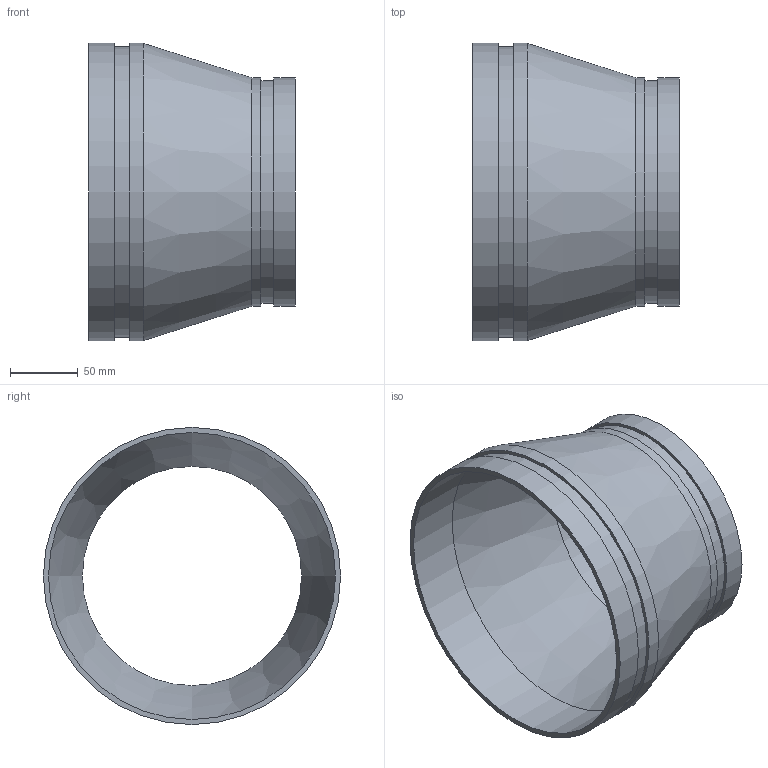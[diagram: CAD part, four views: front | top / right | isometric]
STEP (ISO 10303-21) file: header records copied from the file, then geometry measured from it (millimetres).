
FILE_DESCRIPTION(/* description */ ('VIC REDUCER CONCENTRIC No 450-SS','CAx-IF Rec.Pracs.---Representation and Presentation of Product Manufacturing Information (PMI)---4.0---2014-10-13'),/* implementation_level */ '2;1');
FILE_NAME(/* name */ 'C:\Users\kkamble\AppData\Roaming\Autodesk\ApplicationPlugins\Back Up\Victaulic_SS-OGS_Reducer Concentric_Sched 10S_No 450 SS (OGS)\Victaulic_SS-OGS_Reducer Concentric_Sched 10S_No 450 SS (OGS)_08.0x06.0 (200x150).stp',/* time_stamp */ '2020-09-08T12:33:50+05:00',/* author */ ('CORINNE GRAY'),/* organization */ ('Victaulic'),/* preprocessor_version */ 'ST-DEVELOPER v17.2',/* originating_system */ 'Autodesk Inventor 2019',/* authorisation */ '');
FILE_SCHEMA (('AP242_MANAGED_MODEL_BASED_3D_ENGINEERING_MIM_LF { 1 0 10303 442 1 1 4 }'));
Length unit declared in the file: inch
Products named in the file (1): 450 SS-08.0x06.0
Bounding box: 152.4 x 219.07 x 219.07 mm (x, y, z)
Volume: 299956.9 mm3; surface area: 197377.9 mm2
Topology: 1 solids, 1 shells, 16 faces, 42 edges, 32 vertices
Faces by surface type: cylinder 8, plane 6, cone 2
Full cylindrical faces by diameter (mm): 161.544 x1, 163.957 x1, 168.275 x2, 211.582 x1, 214.401 x1, 219.075 x2
Entity records: 686 total; most frequent: DIRECTION 134, CARTESIAN_POINT 108, ORIENTED_EDGE 84, AXIS2_PLACEMENT_3D 62, EDGE_CURVE 42, CIRCLE 32, VERTEX_POINT 32, EDGE_LOOP 22
